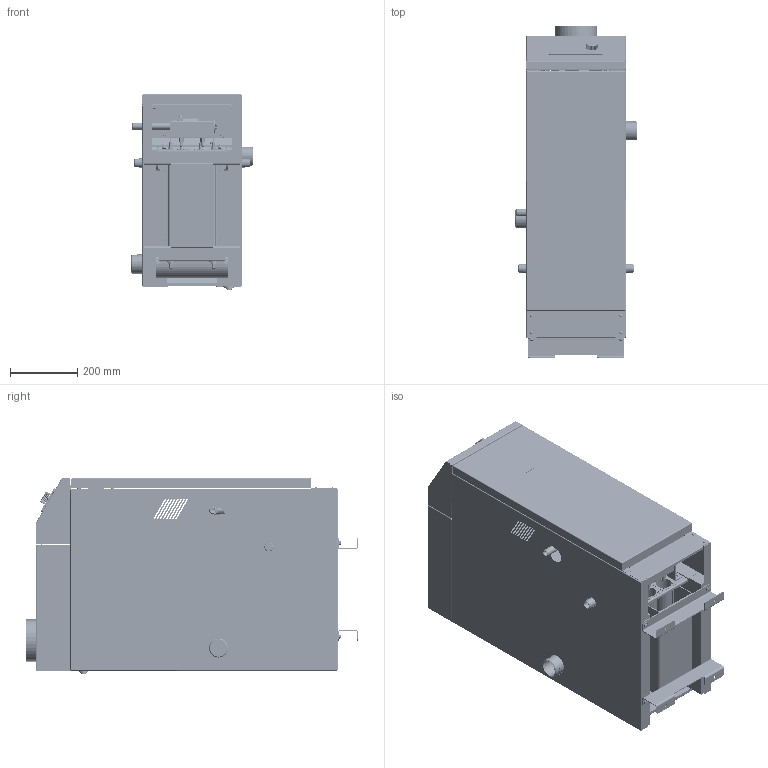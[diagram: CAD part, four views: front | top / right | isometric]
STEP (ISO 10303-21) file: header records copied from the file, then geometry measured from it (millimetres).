
FILE_DESCRIPTION(('STEP AP242'), '1');
FILE_NAME('ﾒﾈﾒﾀﾍ 2016', '', ('UNSPECIFIED'), ('UNSPECIFIED'), 'ASCON STEP Converter 1.6', 'ASCON Math Kernel', '');
FILE_SCHEMA(('AP242_MANAGED_MODEL_BASED_3D_ENGINEERING_MIM_LF { 1 0 10303 442 1 1 4 }'));
Length unit declared in the file: millimetre
Products named in the file (118): КЕВМ.3105.00.00.000-10; КЕВМ.3105.01.00.000; КЕВМ.3103.01.01.002; КЕВМ.3105.01.02.000; КЕВМ.3105.01.02.005; КЕВМ.3105.01.02.001; КЕВМ.3103.01.02.003; КЕВМ.3103.01.02.004; КЕВМ.3103.01.02.007; КЕВМ.3105.01.02.001-01; -01; Клапан манометра 1_2'''' х 1_4''''; Колба защитная; Заглушка Ду50; Кран маевского; Заглушка Ду15; КЕВМ.3105.02.00.000; КЕВМ.3105.02.01.004-01; VTr.090.N.0004; КЕВМ.3105.02.00.003; -03; КЕВМ.3103.02.00.006; КЕВМ.3105.02.00.002; КЕВМ.3105.02.01.000; ШАЙБА под форсунки; КЕВМ.3103.02.01.002; КЕВМ.3105.02.01.004; КЕВМ.3105.02.01.001; КЕВМ.3105.02.00.001; -20; КЕВМ.3105.00.00.003; КЕВМ.3105.00.00.002; КЕВМ.3105.00.00.004; Термостат аварийный IMIT; Колпачек термостата; Значек нет тчги 10х10; Значек закипание 10х10; КЕВМ.3105.10.00.000; КЕВМ.3105.10.00.001; КЕВМ.3103.00.00.021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
Assembly tree (202 placements, depth 5):
  КЕВМ.3105.00.00.000-10
    КЕВМ.3105.01.00.000
      (unnamed)
      (unnamed)
        (unnamed)
        КЕВМ.3103.01.01.002  x2
      КЕВМ.3105.01.02.000
        КЕВМ.3105.01.02.005
        КЕВМ.3105.01.02.001
        (unnamed)
        (unnamed)
        КЕВМ.3103.01.02.003
        КЕВМ.3103.01.02.004
        КЕВМ.3103.01.02.007
        КЕВМ.3105.01.02.001-01
      (unnamed)
      (unnamed)
      (unnamed)
      -01
      Клапан манометра 1_2'''' х 1_4''''
      Колба защитная
      Заглушка Ду50  x2
      (unnamed)  x2
      (unnamed)  x2
      (unnamed)  x4
      (unnamed)  x6
      (unnamed)  x2
      (unnamed)  x2
      Кран маевского
      Заглушка Ду15
    КЕВМ.3105.02.00.000
      (unnamed)  x2
      КЕВМ.3105.02.01.004-01
      (unnamed)  x4
      VTr.090.N.0004
      КЕВМ.3105.02.00.003
      (unnamed)
      (unnamed)  x8
      (unnamed)
        (unnamed)
      (unnamed)  x2
      (unnamed)  x2
      -03  x2
      -01
      (unnamed)
      (unnamed)  x2
      КЕВМ.3103.02.00.006
      КЕВМ.3105.02.00.002
      КЕВМ.3105.02.01.000
        (unnamed)
        (unnamed)  x2
          (unnamed)
          ШАЙБА под форсунки
        КЕВМ.3103.02.01.002  x2
        КЕВМ.3105.02.01.004
        КЕВМ.3105.02.01.001
      КЕВМ.3105.02.00.001
      (unnamed)
    (unnamed)  x2
    (unnamed)  x4
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Bounding box: 360 x 985.9 x 583.81 mm (x, y, z)
Volume: 55085228.1 mm3; surface area: 8766071.7 mm2
Topology: 230 solids, 230 shells, 6457 faces, 15950 edges, 10269 vertices
Faces by surface type: plane 3949, cylinder 1833, bspline 249, cone 197, torus 107, extrusion 72, sphere 50
Full cylindrical faces by diameter (mm): 0.7 x264, 1 x1, 1.5 x8, 2 x9, 2.5 x13, 2.7 x4, 2.9 x21, 3 x34, 3.2 x28, 3.242 x1, 3.3 x8, 3.5 x20, 4 x38, 4.2 x10, 4.4 x1, 4.5 x12, 4.7 x1, 4.917 x4, 5 x14, 5.6 x17, 5.8 x1, 6 x13, 6.4 x8, 6.647 x8, 6.917 x6, 6.95 x2, 7 x6, 7.8 x2, 8 x36, 8.4 x2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
Entity records: 185781 total; most frequent: CARTESIAN_POINT 62237, DIRECTION 21270, ORIENTED_EDGE 21046, EDGE_CURVE 10523, AXIS2_PLACEMENT_3D 7155, VERTEX_POINT 7082, VECTOR 6960, LINE 6888
